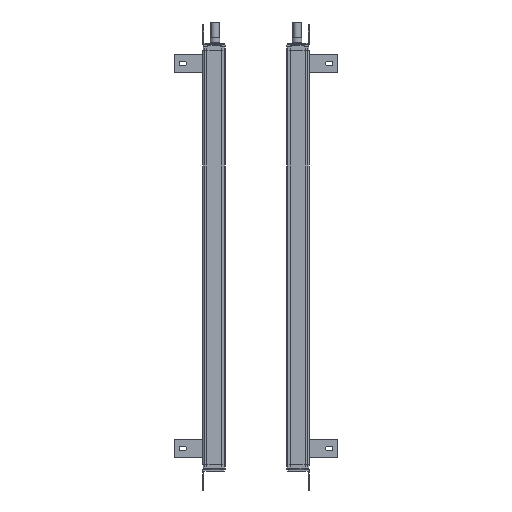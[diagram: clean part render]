
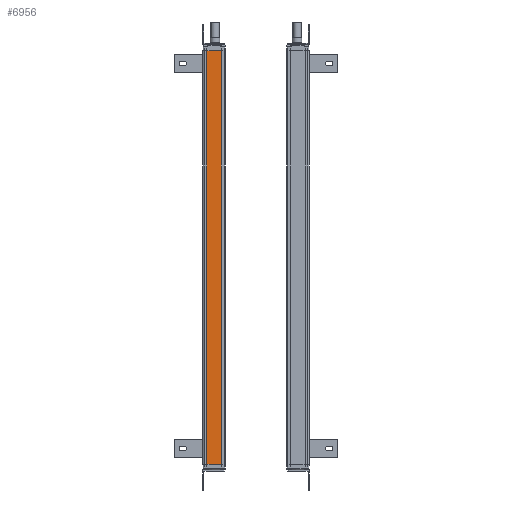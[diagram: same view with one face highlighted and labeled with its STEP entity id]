
A CAD part, left-side view. The second image highlights one B-rep face of the part: STEP entity #6956.
In plain terms, the highlighted planar face has unit normal (-1, 0, 0).
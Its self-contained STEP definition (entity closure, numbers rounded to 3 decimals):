
#953=FACE_OUTER_BOUND('',#9034,.T.);
#2188=LINE('',#33710,#4326);
#2290=LINE('',#34050,#4428);
#2291=LINE('',#34052,#4429);
#2292=LINE('',#34054,#4430);
#4326=VECTOR('',#26897,1.);
#4428=VECTOR('',#27185,1.);
#4429=VECTOR('',#27188,1.);
#4430=VECTOR('',#27189,1.);
#6178=PLANE('',#23723);
#6956=ADVANCED_FACE('',(#953),#6178,.T.);
#9034=EDGE_LOOP('',(#11681,#11682,#11683,#11684));
#11681=ORIENTED_EDGE('',*,*,#19828,.F.);
#11682=ORIENTED_EDGE('',*,*,#19829,.T.);
#11683=ORIENTED_EDGE('',*,*,#19830,.T.);
#11684=ORIENTED_EDGE('',*,*,#19658,.F.);
#17203=VERTEX_POINT('',#33709);
#17204=VERTEX_POINT('',#33711);
#17348=VERTEX_POINT('',#34049);
#17349=VERTEX_POINT('',#34053);
#19658=EDGE_CURVE('',#17203,#17204,#2188,.T.);
#19828=EDGE_CURVE('',#17348,#17203,#2290,.T.);
#19829=EDGE_CURVE('',#17348,#17349,#2291,.T.);
#19830=EDGE_CURVE('',#17349,#17204,#2292,.T.);
#23723=AXIS2_PLACEMENT_3D('',#34055,#27190,#27191);
#26897=DIRECTION('',(0.,-1.,0.));
#27185=DIRECTION('',(0.,0.,1.));
#27188=DIRECTION('',(0.,-1.,0.));
#27189=DIRECTION('',(0.,0.,1.));
#27190=DIRECTION('',(-1.,0.,0.));
#27191=DIRECTION('',(0.,-1.,0.));
#33709=CARTESIAN_POINT('',(233.846,104.141,31.645));
#33710=CARTESIAN_POINT('',(233.846,81.141,31.645));
#33711=CARTESIAN_POINT('',(233.846,81.141,31.645));
#34049=CARTESIAN_POINT('',(233.846,104.141,-623.355));
#34050=CARTESIAN_POINT('',(233.846,104.141,-155.355));
#34052=CARTESIAN_POINT('',(233.846,81.141,-623.355));
#34053=CARTESIAN_POINT('',(233.846,81.141,-623.355));
#34054=CARTESIAN_POINT('',(233.846,81.141,-155.355));
#34055=CARTESIAN_POINT('',(233.846,81.141,-50.355));
